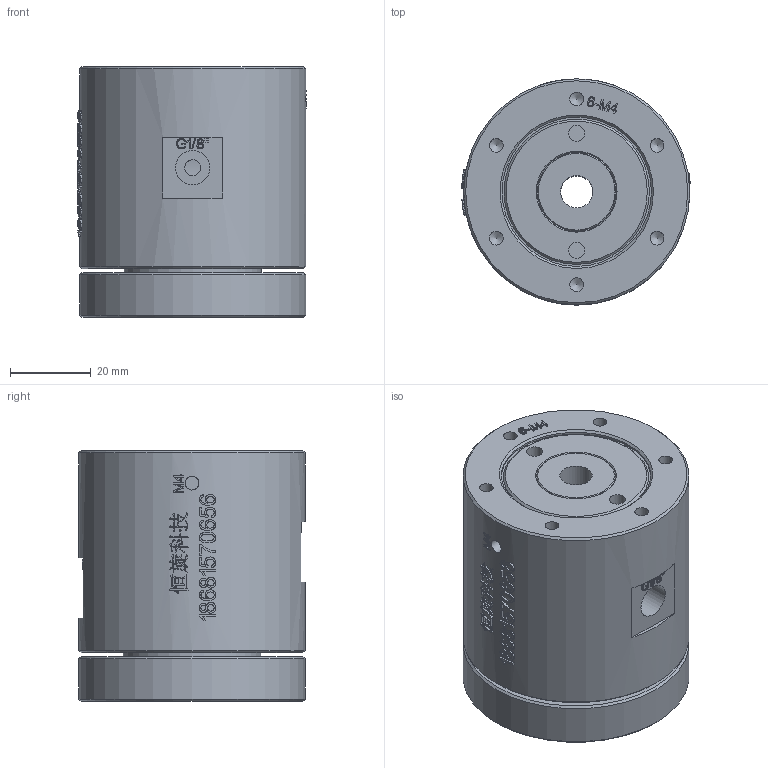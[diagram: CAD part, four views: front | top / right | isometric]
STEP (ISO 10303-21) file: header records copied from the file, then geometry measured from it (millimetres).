
FILE_DESCRIPTION(/* description */ (''),/* implementation_level */ '2;1');
FILE_NAME(/* name */ 'HQD0201-3D模型.stp',/* time_stamp */ '2025-09-05T11:46:13+08:00',/* author */ (''),/* organization */ (''),/* preprocessor_version */ 'ST-DEVELOPER v16.7',/* originating_system */ 'SIEMENS PLM Software NX 12.0',/* authorisation */ '');
FILE_SCHEMA (('AUTOMOTIVE_DESIGN { 1 0 10303 214 3 1 1 1 }'));
Products named in the file (1): Admi30D0F0663cjk
Bounding box: 56.61 x 56 x 62.4 mm (x, y, z)
Volume: 143768.1 mm3; surface area: 23135.2 mm2
Topology: 1 solids, 1 shells, 1245 faces, 3390 edges, 2260 vertices
Faces by surface type: extrusion 592, plane 525, bspline 66, cylinder 43, cone 19
Full cylindrical faces by diameter (mm): 3.4 x12, 4 x6, 8 x1, 8.5 x4, 34 x1, 37 x1, 42 x1, 56 x2
Entity records: 47218 total; most frequent: CARTESIAN_POINT 20822, ORIENTED_EDGE 6626, EDGE_CURVE 3313, B_SPLINE_CURVE_WITH_KNOTS 3021, DIRECTION 2885, VERTEX_POINT 2241, EDGE_LOOP 1408, ADVANCED_FACE 1245
